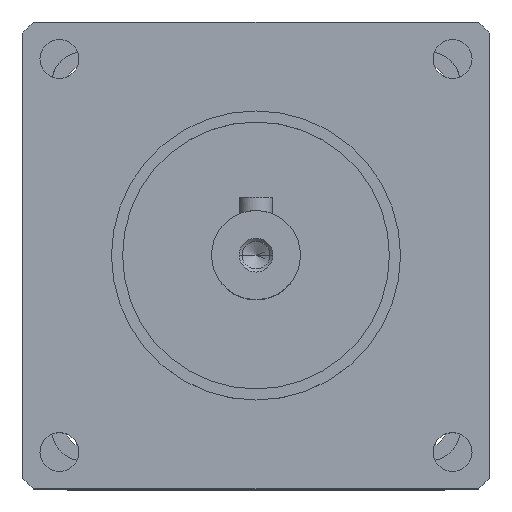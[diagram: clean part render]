
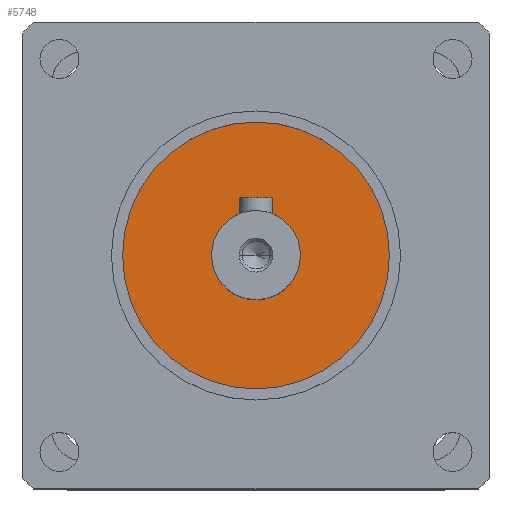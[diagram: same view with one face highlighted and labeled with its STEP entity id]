
A CAD part, top view. The second image highlights one B-rep face of the part: STEP entity #5748.
In plain terms, the highlighted planar face has unit normal (0, 0, 1).
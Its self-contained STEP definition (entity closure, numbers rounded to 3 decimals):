
#59 = DIRECTION ( 'NONE',  ( 0., 0., 1. ) ) ;
#238 = FACE_BOUND ( 'NONE', #5762, .T. ) ;
#541 = CARTESIAN_POINT ( 'NONE',  ( 0., 0., 7.2 ) ) ;
#598 = DIRECTION ( 'NONE',  ( 1., 0., 0. ) ) ;
#605 = ORIENTED_EDGE ( 'NONE', *, *, #3246, .F. ) ;
#608 = EDGE_CURVE ( 'NONE', #6972, #3873, #4545, .T. ) ;
#728 = DIRECTION ( 'NONE',  ( 1., 0., 0. ) ) ;
#904 = VERTEX_POINT ( 'NONE', #990 ) ;
#990 = CARTESIAN_POINT ( 'NONE',  ( 12., 0., 7.2 ) ) ;
#1033 = DIRECTION ( 'NONE',  ( 1., 0., 0. ) ) ;
#1071 = DIRECTION ( 'NONE',  ( 1., 0., 0. ) ) ;
#1506 = AXIS2_PLACEMENT_3D ( 'NONE', #3515, #6276, #5683 ) ;
#1537 = CARTESIAN_POINT ( 'NONE',  ( 0., 0., 7.2 ) ) ;
#1569 = CARTESIAN_POINT ( 'NONE',  ( 4., 0., 7.2 ) ) ;
#2521 = EDGE_LOOP ( 'NONE', ( #3119, #4466 ) ) ;
#2981 = VERTEX_POINT ( 'NONE', #3472 ) ;
#3119 = ORIENTED_EDGE ( 'NONE', *, *, #5553, .F. ) ;
#3246 = EDGE_CURVE ( 'NONE', #3873, #6972, #4391, .T. ) ;
#3293 = AXIS2_PLACEMENT_3D ( 'NONE', #3995, #5570, #728 ) ;
#3472 = CARTESIAN_POINT ( 'NONE',  ( -12., 0., 7.2 ) ) ;
#3515 = CARTESIAN_POINT ( 'NONE',  ( 0., 0., 7.2 ) ) ;
#3628 = CARTESIAN_POINT ( 'NONE',  ( -4., 0., 7.2 ) ) ;
#3679 = CARTESIAN_POINT ( 'NONE',  ( 0., 0., 7.2 ) ) ;
#3873 = VERTEX_POINT ( 'NONE', #1569 ) ;
#3897 = EDGE_CURVE ( 'NONE', #904, #2981, #5314, .T. ) ;
#3919 = FACE_OUTER_BOUND ( 'NONE', #2521, .T. ) ;
#3995 = CARTESIAN_POINT ( 'NONE',  ( 0., 0., 7.2 ) ) ;
#4091 = ORIENTED_EDGE ( 'NONE', *, *, #608, .F. ) ;
#4289 = DIRECTION ( 'NONE',  ( 0., 0., 1. ) ) ;
#4391 = CIRCLE ( 'NONE', #4964, 4. ) ;
#4466 = ORIENTED_EDGE ( 'NONE', *, *, #3897, .F. ) ;
#4545 = CIRCLE ( 'NONE', #6016, 4. ) ;
#4809 = DIRECTION ( 'NONE',  ( 0., 0., -1. ) ) ;
#4964 = AXIS2_PLACEMENT_3D ( 'NONE', #3679, #4289, #598 ) ;
#5314 = CIRCLE ( 'NONE', #5426, 12. ) ;
#5426 = AXIS2_PLACEMENT_3D ( 'NONE', #1537, #4809, #1033 ) ;
#5553 = EDGE_CURVE ( 'NONE', #2981, #904, #5560, .T. ) ;
#5560 = CIRCLE ( 'NONE', #1506, 12. ) ;
#5570 = DIRECTION ( 'NONE',  ( 0., 0., 1. ) ) ;
#5683 = DIRECTION ( 'NONE',  ( 1., 0., 0. ) ) ;
#5748 = ADVANCED_FACE ( 'NONE', ( #238, #3919 ), #6092, .T. ) ;
#5762 = EDGE_LOOP ( 'NONE', ( #4091, #605 ) ) ;
#6016 = AXIS2_PLACEMENT_3D ( 'NONE', #541, #59, #1071 ) ;
#6092 = PLANE ( 'NONE',  #3293 ) ;
#6276 = DIRECTION ( 'NONE',  ( 0., 0., -1. ) ) ;
#6972 = VERTEX_POINT ( 'NONE', #3628 ) ;
